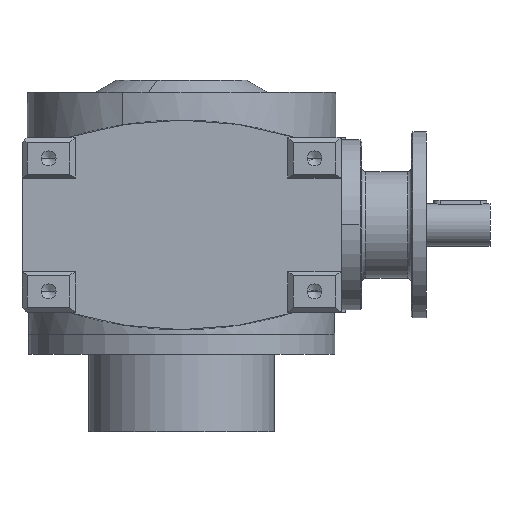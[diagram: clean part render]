
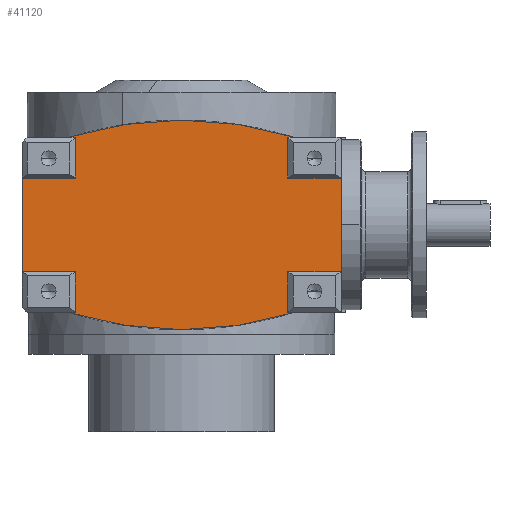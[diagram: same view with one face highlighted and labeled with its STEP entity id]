
A CAD part, front view. The second image highlights one B-rep face of the part: STEP entity #41120.
In plain terms, the highlighted planar face has unit normal (0, -1, 0).
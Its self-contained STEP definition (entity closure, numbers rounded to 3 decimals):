
#14260=CARTESIAN_POINT('',(-39.,-87.,82.5));
#14270=VERTEX_POINT('',#14260);
#17080=CARTESIAN_POINT('',(-249.,-87.,82.5));
#17090=VERTEX_POINT('',#17080);
#17120=CARTESIAN_POINT('',(-269.,-87.,82.5));
#17130=DIRECTION('',(1.,0.,0.));
#17140=VECTOR('',#17130,1.);
#17150=LINE('',#17120,#17140);
#19260=CARTESIAN_POINT('',(-144.,-87.,-254.031));
#19270=DIRECTION('',(0.,-1.,0.));
#19280=DIRECTION('',(0.,0.,1.));
#19290=AXIS2_PLACEMENT_3D('',#19260,#19270,#19280);
#19300=CIRCLE('',#19290,352.531);
#19310=EDGE_CURVE('',#14270,#17090,#19300,.T.);
#19470=CARTESIAN_POINT('',(6.,-87.,44.062));
#19480=VERTEX_POINT('',#19470);
#19530=CARTESIAN_POINT('',(0.,-87.,44.062));
#19540=DIRECTION('',(1.,0.,0.));
#19550=VECTOR('',#19540,1.);
#19560=LINE('',#19530,#19550);
#19570=CARTESIAN_POINT('',(-44.,-87.,44.062));
#19580=VERTEX_POINT('',#19570);
#19590=EDGE_CURVE('',#19580,#19480,#19560,.T.);
#19830=CARTESIAN_POINT('',(0.,-87.,-44.063));
#19840=DIRECTION('',(1.,0.,0.));
#19850=VECTOR('',#19840,1.);
#19860=LINE('',#19830,#19850);
#19870=CARTESIAN_POINT('',(-44.,-87.,-44.063));
#19880=VERTEX_POINT('',#19870);
#19890=CARTESIAN_POINT('',(6.,-87.,-44.063));
#19900=VERTEX_POINT('',#19890);
#19910=EDGE_CURVE('',#19880,#19900,#19860,.T.);
#20370=CARTESIAN_POINT('',(-44.,-87.,82.5));
#20380=VERTEX_POINT('',#20370);
#20410=CARTESIAN_POINT('',(-275.05,-87.,82.5));
#20420=DIRECTION('',(-1.,0.,0.));
#20430=VECTOR('',#20420,1.);
#20440=LINE('',#20410,#20430);
#20450=EDGE_CURVE('',#14270,#20380,#20440,.T.);
#20660=CARTESIAN_POINT('',(-244.,-87.,82.5));
#20670=VERTEX_POINT('',#20660);
#20880=EDGE_CURVE('',#17090,#20670,#17150,.T.);
#38150=CARTESIAN_POINT('',(-39.,-87.,-82.5));
#38160=VERTEX_POINT('',#38150);
#38190=CARTESIAN_POINT('',(-16.75,-87.,-82.5));
#38200=DIRECTION('',(1.,0.,0.));
#38210=VECTOR('',#38200,1.);
#38220=LINE('',#38190,#38210);
#40330=CARTESIAN_POINT('',(-44.,-87.,-82.5));
#40340=DIRECTION('',(0.,0.,1.));
#40350=VECTOR('',#40340,1.);
#40360=LINE('',#40330,#40350);
#40370=EDGE_CURVE('',#19580,#20380,#40360,.T.);
#40440=CARTESIAN_POINT('',(-244.,-87.,-82.5));
#40450=DIRECTION('',(0.,1.,-0.));
#40460=DIRECTION('',(-1.,0.,0.));
#40470=AXIS2_PLACEMENT_3D('',#40440,#40450,#40460);
#40480=PLANE('',#40470);
#40490=ORIENTED_EDGE('',*,*,#19590,.F.);
#40500=CARTESIAN_POINT('',(6.,-87.,-103.5));
#40510=DIRECTION('',(0.,0.,-1.));
#40520=VECTOR('',#40510,1.);
#40530=LINE('',#40500,#40520);
#40540=EDGE_CURVE('',#19480,#19900,#40530,.T.);
#40550=ORIENTED_EDGE('',*,*,#40540,.F.);
#40560=ORIENTED_EDGE('',*,*,#19910,.T.);
#40570=CARTESIAN_POINT('',(-44.,-87.,-82.5));
#40580=VERTEX_POINT('',#40570);
#40590=EDGE_CURVE('',#40580,#19880,#40360,.T.);
#40600=ORIENTED_EDGE('',*,*,#40590,.T.);
#40610=EDGE_CURVE('',#40580,#38160,#38220,.T.);
#40620=ORIENTED_EDGE('',*,*,#40610,.F.);
#40630=CARTESIAN_POINT('',(-144.,-87.,254.031));
#40640=DIRECTION('',(0.,1.,0.));
#40650=DIRECTION('',(0.,0.,1.));
#40660=AXIS2_PLACEMENT_3D('',#40630,#40640,#40650);
#40670=CIRCLE('',#40660,352.531);
#40680=CARTESIAN_POINT('',(-249.,-87.,-82.5));
#40690=VERTEX_POINT('',#40680);
#40700=EDGE_CURVE('',#38160,#40690,#40670,.T.);
#40710=ORIENTED_EDGE('',*,*,#40700,.F.);
#40720=CARTESIAN_POINT('',(-275.05,-87.,-82.5));
#40730=DIRECTION('',(-1.,0.,0.));
#40740=VECTOR('',#40730,1.);
#40750=LINE('',#40720,#40740);
#40760=CARTESIAN_POINT('',(-244.,-87.,-82.5));
#40770=VERTEX_POINT('',#40760);
#40780=EDGE_CURVE('',#40770,#40690,#40750,.T.);
#40790=ORIENTED_EDGE('',*,*,#40780,.T.);
#40800=CARTESIAN_POINT('',(-244.,-87.,-82.5));
#40810=DIRECTION('',(0.,0.,1.));
#40820=VECTOR('',#40810,1.);
#40830=LINE('',#40800,#40820);
#40840=CARTESIAN_POINT('',(-244.,-87.,-44.063));
#40850=VERTEX_POINT('',#40840);
#40860=EDGE_CURVE('',#40770,#40850,#40830,.T.);
#40870=ORIENTED_EDGE('',*,*,#40860,.F.);
#40880=CARTESIAN_POINT('',(-294.,-87.,-44.063));
#40890=VERTEX_POINT('',#40880);
#40900=EDGE_CURVE('',#40890,#40850,#19860,.T.);
#40910=ORIENTED_EDGE('',*,*,#40900,.T.);
#40920=CARTESIAN_POINT('',(-294.,-87.,-103.5));
#40930=DIRECTION('',(0.,0.,1.));
#40940=VECTOR('',#40930,1.);
#40950=LINE('',#40920,#40940);
#40960=CARTESIAN_POINT('',(-294.,-87.,44.062));
#40970=VERTEX_POINT('',#40960);
#40980=EDGE_CURVE('',#40890,#40970,#40950,.T.);
#40990=ORIENTED_EDGE('',*,*,#40980,.F.);
#41000=CARTESIAN_POINT('',(-244.,-87.,44.062));
#41010=VERTEX_POINT('',#41000);
#41020=EDGE_CURVE('',#40970,#41010,#19560,.T.);
#41030=ORIENTED_EDGE('',*,*,#41020,.F.);
#41040=EDGE_CURVE('',#41010,#20670,#40830,.T.);
#41050=ORIENTED_EDGE('',*,*,#41040,.F.);
#41060=ORIENTED_EDGE('',*,*,#20880,.T.);
#41070=ORIENTED_EDGE('',*,*,#19310,.T.);
#41080=ORIENTED_EDGE('',*,*,#20450,.F.);
#41090=ORIENTED_EDGE('',*,*,#40370,.T.);
#41100=EDGE_LOOP('',(#41090,#41080,#41070,#41060,#41050,#41030,#40990,
#40910,#40870,#40790,#40710,#40620,#40600,#40560,#40550,#40490));
#41110=FACE_OUTER_BOUND('',#41100,.T.);
#41120=ADVANCED_FACE('',(#41110),#40480,.F.);
